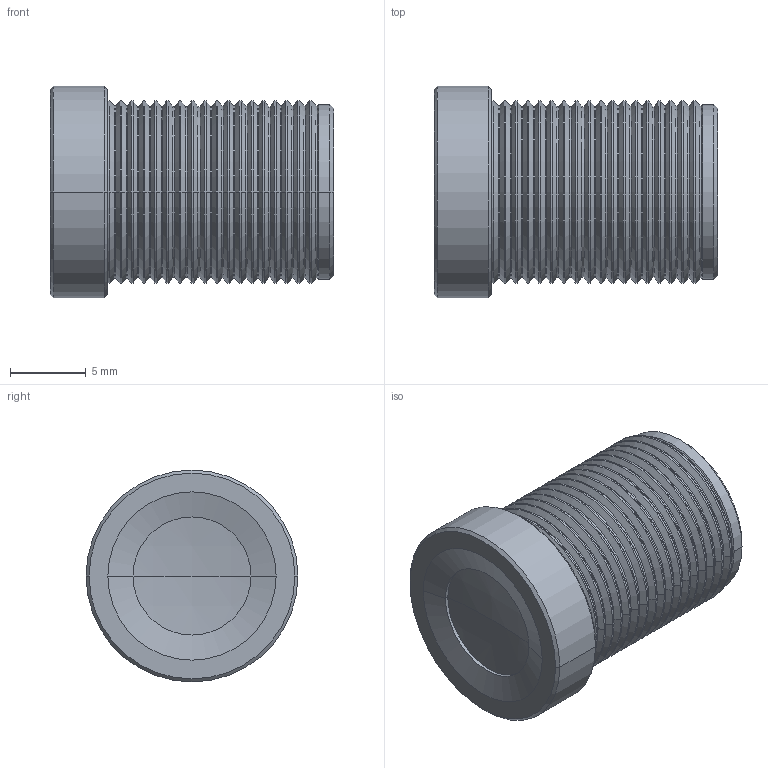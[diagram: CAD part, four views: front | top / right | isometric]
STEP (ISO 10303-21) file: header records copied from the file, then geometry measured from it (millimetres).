
FILE_DESCRIPTION (( 'STEP AP214' ), '1' );
FILE_NAME ('AB0618MG-20250210.STEP', '2025-02-10T00:35:41', ( '' ), ( '' ), 'SwSTEP 2.0', 'SolidWorks 2012', '' );
FILE_SCHEMA (( 'AUTOMOTIVE_DESIGN' ));
Length unit declared in the file: millimetre
Products named in the file (1): AB0618MG-20250210
Bounding box: 18.7 x 14 x 14 mm (x, y, z)
Volume: 2135.6 mm3; surface area: 1234.2 mm2
Topology: 1 solids, 1 shells, 165 faces, 328 edges, 167 vertices
Faces by surface type: cone 82, cylinder 78, plane 3, sphere 2
Entity records: 4164 total; most frequent: DIRECTION 828, CARTESIAN_POINT 661, ORIENTED_EDGE 656, AXIS2_PLACEMENT_3D 334, EDGE_CURVE 328, CIRCLE 168, EDGE_LOOP 167, VERTEX_POINT 167
